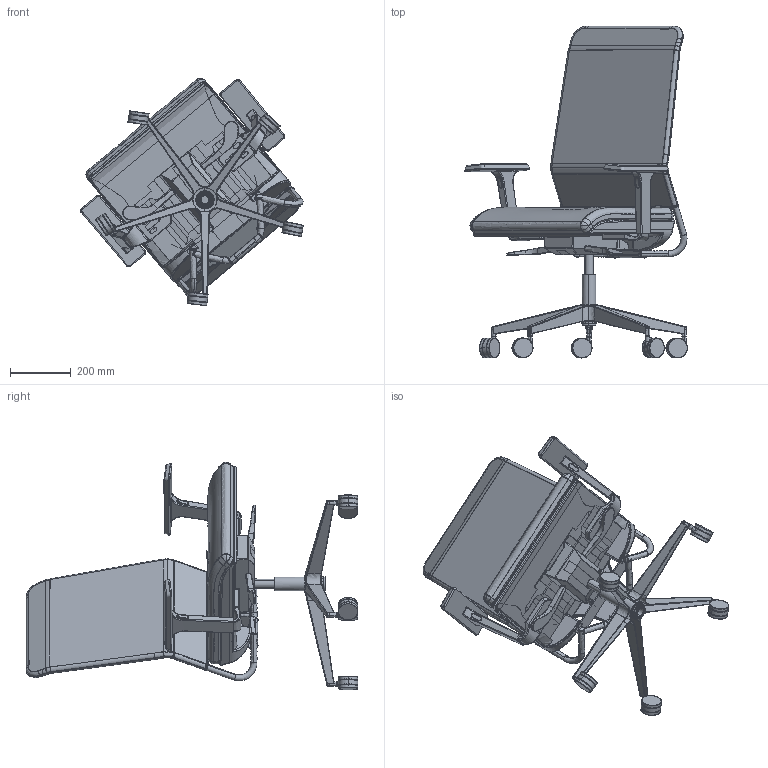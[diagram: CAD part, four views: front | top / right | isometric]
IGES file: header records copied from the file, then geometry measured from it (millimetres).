
Start section: SolidWorks IGES file using NURBS representation for surfaces
Global section: file name: E:\PLUT.ARCH ™\PROJECTS\BELONE\BELONE CHAIR\CADEIRA BELONE.IGS; native system: SolidWorks 2012; preprocessor: SolidWorks 2012; author: Paulo; date: 190710.103055; units: millimetre
Bounding box: 735.62 x 1094.99 x 750.77 mm (x, y, z)
Surface area: 4208574.8 mm2 (no closed solid volume)
Topology: 0 solids, 0 shells, 2066 faces, 51239 edges, 61443 vertices
Faces by surface type: bspline 2066
